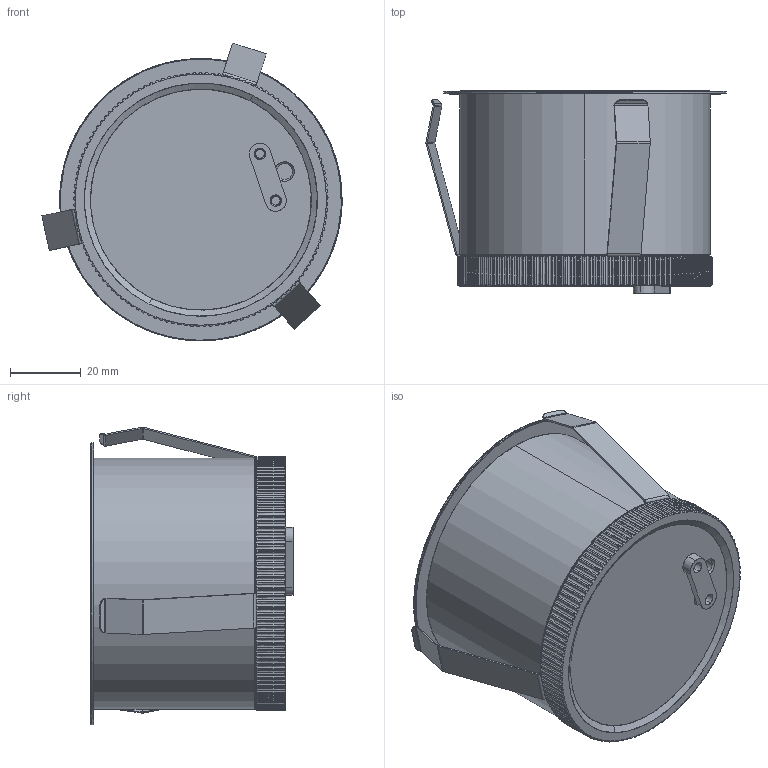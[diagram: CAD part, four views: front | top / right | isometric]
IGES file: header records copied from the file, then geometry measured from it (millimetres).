
Start section: SolidWorks IGES file using analytic representation for surfaces
Global section: file name: \\ARNOLD\compartida\Nueva Coleccion Septiembre 2026\ARQUITECTURAL\SEITY_informacion\SEITY_imagenes y 3d\Required documents_0706\3D STEP file - downlights\IDON T0334\102015-75P.STEP.IGS; native system: SolidWorks 2023; preprocessor: SolidWorks 2023; author: adrian; date: 260828.100752; units: millimetre
Bounding box: 84.99 x 57.2 x 84.35 mm (x, y, z)
Surface area: 64869 mm2 (no closed solid volume)
Topology: 0 solids, 0 shells, 1344 faces, 16264 edges, 16261 vertices
Faces by surface type: revolution 1070, bspline 274
